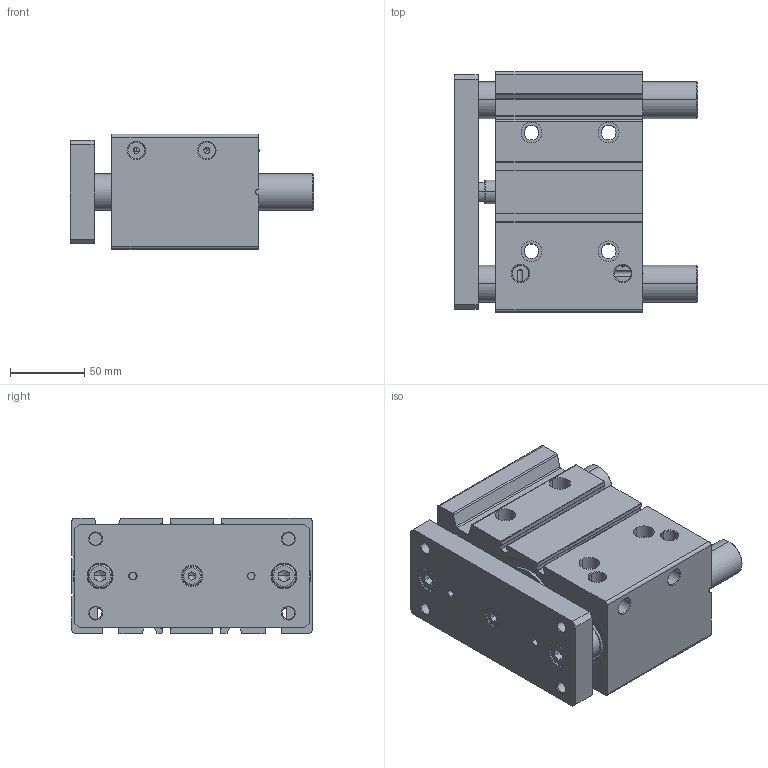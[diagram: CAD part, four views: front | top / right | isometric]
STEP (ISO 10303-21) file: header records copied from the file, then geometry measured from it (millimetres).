
FILE_DESCRIPTION (( 'STEP AP214' ), '1' );
FILE_NAME ('300652_4.STEP', '2017-01-10T15:41:52', ( '' ), ( '' ), 'SwSTEP 2.0', 'SolidWorks 2016', '' );
FILE_SCHEMA (( 'AUTOMOTIVE_DESIGN' ));
Length unit declared in the file: millimetre
Products named in the file (1): 300652_4
Bounding box: 164 x 162 x 78 mm (x, y, z)
Volume: 1212389.7 mm3; surface area: 200313.4 mm2
Topology: 11 solids, 11 shells, 577 faces, 1519 edges, 965 vertices
Faces by surface type: cylinder 262, plane 173, cone 126, torus 10, bspline 6
Entity records: 25253 total; most frequent: CARTESIAN_POINT 4280, DIRECTION 3235, ORIENTED_EDGE 2970, EDGE_CURVE 1485, AXIS2_PLACEMENT_3D 1260, VERTEX_POINT 965, VECTOR 715, LINE 715
